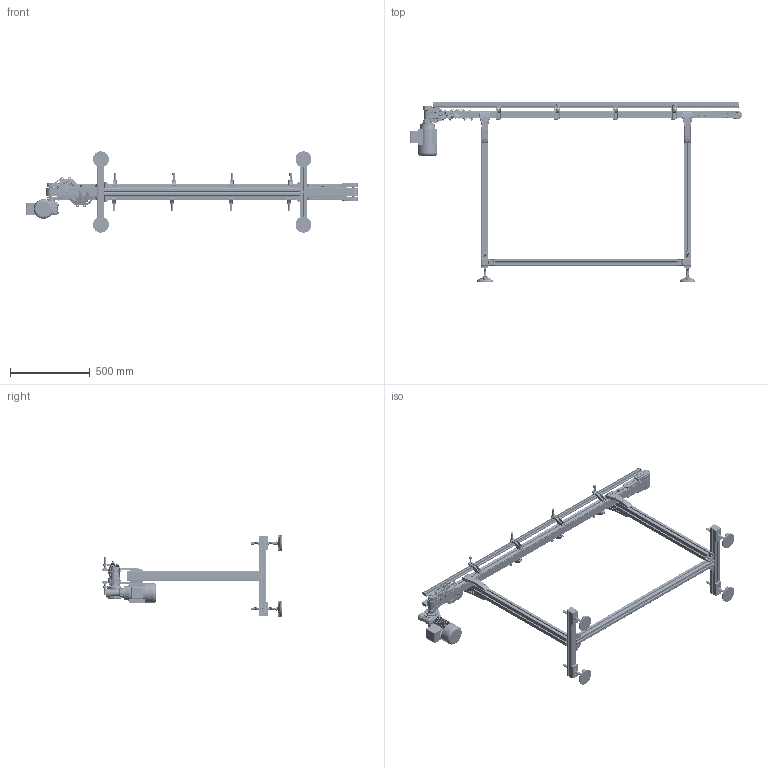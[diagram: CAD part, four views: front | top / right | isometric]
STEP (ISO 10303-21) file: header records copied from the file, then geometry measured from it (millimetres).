
FILE_DESCRIPTION (( 'STEP AP203' ), '1' );
FILE_NAME ('NASTRO_PISTE_PARALLELE.step', '2026-04-23T15:28:51', ( 'Utente Windows' ), ( '' ), 'SwSTEP 2.0', 'SolidWorks 2024', '' );
FILE_SCHEMA (( 'CONFIG_CONTROL_DESIGN' ));
Length unit declared in the file: millimetre
Products named in the file (56): 084.402.005; 084.712.002; 084.405.001; VITI TCEI UNI 5931_M6x12 UNI 5931; 084.808.014; 084.302.000 DADI ALUSIC 13x13-1_084.302.009; FLANGIA_GAMBA_50; 084.815.124; 2010.000.069; 084.000.A47_VF30P; CHIAVETTE_A 5x5x40 UNI 6604-69; GAMBE_45X60_PISTA SINGOLA_Default<A macchina>; RONDELLE UNI 6592_8.4x17 UNI 6592; TELAIO_45X60_Default<A macchina>; D50_L50_TAPPETO_RINVIO; SPONDA_Default<A macchina>; 084.802.017_084.802.017; VITI TCEI UNI 5931_M4x12 UNI 5931; TAPPO_PROFILO_45X45; 084.802.008; 084.711.006_L1; TAPPETO_STANDARD; 084.803.018; 084.301.000 VITI ALUSIC1_084.301.003; 084.305.003-1; 084.711.003; 2010.000.068_L; 084.711.005; 084.802.060_Default<A macchina>; NASTRO_PISTE_PARALLELE; 2010.000.068; 2010.000.070; VITI TE UNI 5739_M6x16 UNI 5739; DADI ESAGONALI NORMALI UNI 5588_M6 UNI 5588; CH04P_DX; 084.802.071; 084.301.000 VITI ALUSIC_084.301.003; PIEDE_1; 084.802.061; 084.711.006_L2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
Assembly tree (137 placements, depth 4):
  NASTRO_PISTE_PARALLELE
    TAPPETO_STANDARD
    LAMIERA_STANDARD
    TELAIO_45X60_Default<A macchina>
    D50_L50_TAPPETO_TRAINO_PISTA_SINGOLA_DX
      084.807.003_084.807.003<A macchina>  x2
      084.802.017_084.802.017  x2
      084.815.124
      084.802.071
      084.000.A47_VF30P
        084.808.012
        084.802.062
        084.802.061
        VITI TE UNI 5739_M6x16 UNI 5739  x4
        084.803.018
        VITI TCEI UNI 5931_M6x12 UNI 5931  x4
      084.000.A49_SA37  x4
        084.808.014
        084.802.060_Default<A macchina>
        VITI TE UNI 5739_M8x12 UNI 5739
        084.802.062
        VITI TE UNI 5739_M6x12 UNI 5739
      CHIAVETTE_A 5x5x40 UNI 6604-69
      VITI TCEI UNI 5931_M4x12 UNI 5931  x2
    D50_L50_TAPPETO_RINVIO
      084.815.125
      084.301.000 VITI ALUSIC_084.301.003  x6
      084.302.000 DADI ALUSIC 13x13_084.302.004  x6
      084.807.003_084.807.003<A macchina>  x2
      084.802.017_084.802.017  x2
      084.802.008  x2
      084.802.071  x2
    CH04P_DX
    GAMBE_45X60_PISTA SINGOLA_Default<A macchina>  x2
    FLANGIA_GAMBA_50  x4
      084.302.000 DADI ALUSIC 13x13-1_084.302.004
      RONDELLE UNI 6592_8.4x17 UNI 6592
      084.301.000 VITI ALUSIC_084.301.003
      2010.000.068
        2010.000.068_L
        2010.000.069
        2010.000.070
    TAPPO_PROFILO_45X60  x2
    TAPPO_PROFILO_45X45  x4
    PIEDE_1  x4
      084.405.001
      084.402.005
      084.301.000 VITI ALUSIC1_084.301.003
      084.302.000 DADI ALUSIC 13x13-1_084.302.004
    TRAVERSA_GAMBE_45X45_Default<A macchina>
    ANGOLARE_43  x4
      084.305.003-1
      084.302.000 DADI ALUSIC 13x13-1_084.302.009
      084.301.000 VITI ALUSIC_084.301.003
    SPONDA_Default<A macchina>  x2
    084.711.006_PERNO INDIETRO  x8
      084.711.006_L1
      084.711.006_L2
      084.711.007
      084.711.005
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Bounding box: 2081.6 x 1128.73 x 509.82 mm (x, y, z)
Volume: 11772929.8 mm3; surface area: 6454429.9 mm2
Topology: 277 solids, 287 shells, 15803 faces, 40304 edges, 25367 vertices
Faces by surface type: plane 6285, cylinder 4638, bspline 1779, cone 1624, torus 1283, sphere 194
Entity records: 199930 total; most frequent: CARTESIAN_POINT 75740, ORIENTED_EDGE 25510, DIRECTION 22778, EDGE_CURVE 12755, VERTEX_POINT 8153, AXIS2_PLACEMENT_3D 8067, LINE 6644, VECTOR 6644
